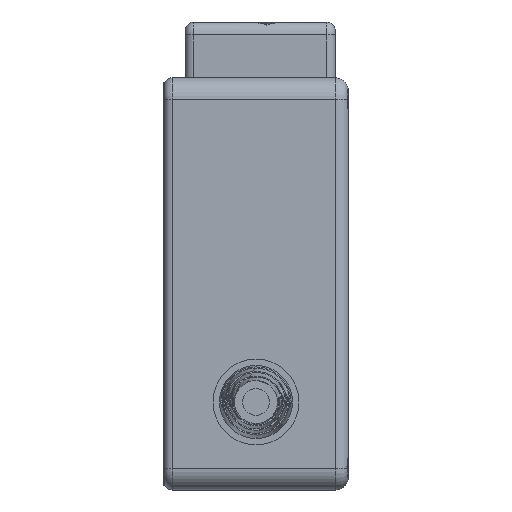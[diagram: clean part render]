
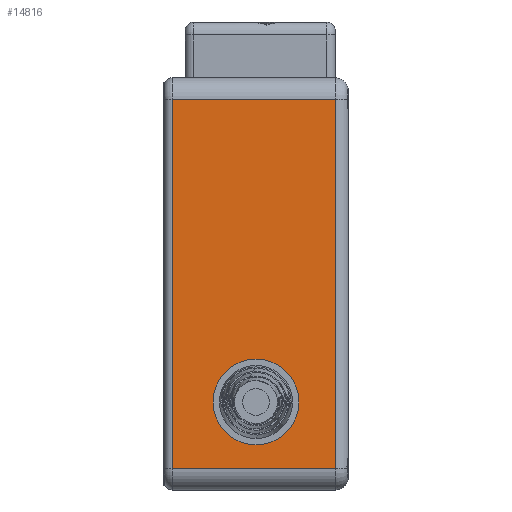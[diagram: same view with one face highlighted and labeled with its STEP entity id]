
A CAD part, left-side view. The second image highlights one B-rep face of the part: STEP entity #14816.
In plain terms, the highlighted planar face has unit normal (-1, 0, 0).
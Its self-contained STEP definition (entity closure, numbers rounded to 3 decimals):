
#489 = AXIS2_PLACEMENT_3D ( 'NONE', #8819, #12297, #11006 ) ;
#750 = AXIS2_PLACEMENT_3D ( 'NONE', #14453, #4116, #10899 ) ;
#833 = CARTESIAN_POINT ( 'NONE',  ( -65., 18.5, -27.5 ) ) ;
#864 = DIRECTION ( 'NONE',  ( 0., -1., 0. ) ) ;
#1008 = VERTEX_POINT ( 'NONE', #6655 ) ;
#1167 = DIRECTION ( 'NONE',  ( 0., 0., -1. ) ) ;
#1180 = VECTOR ( 'NONE', #5366, 1000. ) ;
#1446 = EDGE_CURVE ( 'NONE', #7194, #4226, #4162, .T. ) ;
#2583 = CARTESIAN_POINT ( 'NONE',  ( -65., 0., 43. ) ) ;
#3134 = FACE_BOUND ( 'NONE', #8528, .T. ) ;
#3392 = ORIENTED_EDGE ( 'NONE', *, *, #9384, .T. ) ;
#3503 = LINE ( 'NONE', #4779, #6663 ) ;
#3823 = VERTEX_POINT ( 'NONE', #4928 ) ;
#4116 = DIRECTION ( 'NONE',  ( 1., 0., 0. ) ) ;
#4162 = LINE ( 'NONE', #11241, #1180 ) ;
#4226 = VERTEX_POINT ( 'NONE', #12145 ) ;
#4779 = CARTESIAN_POINT ( 'NONE',  ( -65., 0., 48. ) ) ;
#4826 = CIRCLE ( 'NONE', #6265, 10. ) ;
#4928 = CARTESIAN_POINT ( 'NONE',  ( -65., 18.5, -17.5 ) ) ;
#5282 = DIRECTION ( 'NONE',  ( -1., 0., 0. ) ) ;
#5305 = ORIENTED_EDGE ( 'NONE', *, *, #14105, .F. ) ;
#5366 = DIRECTION ( 'NONE',  ( 0., 1., 0. ) ) ;
#6145 = ORIENTED_EDGE ( 'NONE', *, *, #13873, .T. ) ;
#6265 = AXIS2_PLACEMENT_3D ( 'NONE', #833, #5282, #9885 ) ;
#6316 = ORIENTED_EDGE ( 'NONE', *, *, #1446, .T. ) ;
#6655 = CARTESIAN_POINT ( 'NONE',  ( -65., 18.5, -37.5 ) ) ;
#6663 = VECTOR ( 'NONE', #9385, 1000. ) ;
#6703 = EDGE_CURVE ( 'NONE', #4226, #8895, #7962, .T. ) ;
#7194 = VERTEX_POINT ( 'NONE', #2583 ) ;
#7274 = ORIENTED_EDGE ( 'NONE', *, *, #6703, .T. ) ;
#7341 = ORIENTED_EDGE ( 'NONE', *, *, #14089, .F. ) ;
#7806 = LINE ( 'NONE', #12478, #9403 ) ;
#7835 = CARTESIAN_POINT ( 'NONE',  ( -65., 0., -43. ) ) ;
#7962 = LINE ( 'NONE', #13618, #14596 ) ;
#8528 = EDGE_LOOP ( 'NONE', ( #5305, #7341 ) ) ;
#8788 = VERTEX_POINT ( 'NONE', #7835 ) ;
#8819 = CARTESIAN_POINT ( 'NONE',  ( -65., 18.5, -27.5 ) ) ;
#8895 = VERTEX_POINT ( 'NONE', #11673 ) ;
#9257 = EDGE_LOOP ( 'NONE', ( #7274, #6145, #3392, #6316 ) ) ;
#9384 = EDGE_CURVE ( 'NONE', #8788, #7194, #3503, .T. ) ;
#9385 = DIRECTION ( 'NONE',  ( 0., 0., 1. ) ) ;
#9403 = VECTOR ( 'NONE', #864, 1000. ) ;
#9647 = CIRCLE ( 'NONE', #489, 10. ) ;
#9843 = FACE_OUTER_BOUND ( 'NONE', #9257, .T. ) ;
#9885 = DIRECTION ( 'NONE',  ( 0., 0., -1. ) ) ;
#10899 = DIRECTION ( 'NONE',  ( 0., 0., -1. ) ) ;
#11006 = DIRECTION ( 'NONE',  ( 0., 0., -1. ) ) ;
#11044 = PLANE ( 'NONE',  #750 ) ;
#11241 = CARTESIAN_POINT ( 'NONE',  ( -65., 40., 43. ) ) ;
#11673 = CARTESIAN_POINT ( 'NONE',  ( -65., 38., -43. ) ) ;
#12145 = CARTESIAN_POINT ( 'NONE',  ( -65., 38., 43. ) ) ;
#12297 = DIRECTION ( 'NONE',  ( -1., 0., 0. ) ) ;
#12478 = CARTESIAN_POINT ( 'NONE',  ( -65., 40., -43. ) ) ;
#13618 = CARTESIAN_POINT ( 'NONE',  ( -65., 38., 48. ) ) ;
#13873 = EDGE_CURVE ( 'NONE', #8895, #8788, #7806, .T. ) ;
#14089 = EDGE_CURVE ( 'NONE', #3823, #1008, #9647, .T. ) ;
#14105 = EDGE_CURVE ( 'NONE', #1008, #3823, #4826, .T. ) ;
#14453 = CARTESIAN_POINT ( 'NONE',  ( -65., 40., 48. ) ) ;
#14596 = VECTOR ( 'NONE', #1167, 1000. ) ;
#14816 = ADVANCED_FACE ( 'NONE', ( #3134, #9843 ), #11044, .F. ) ;
